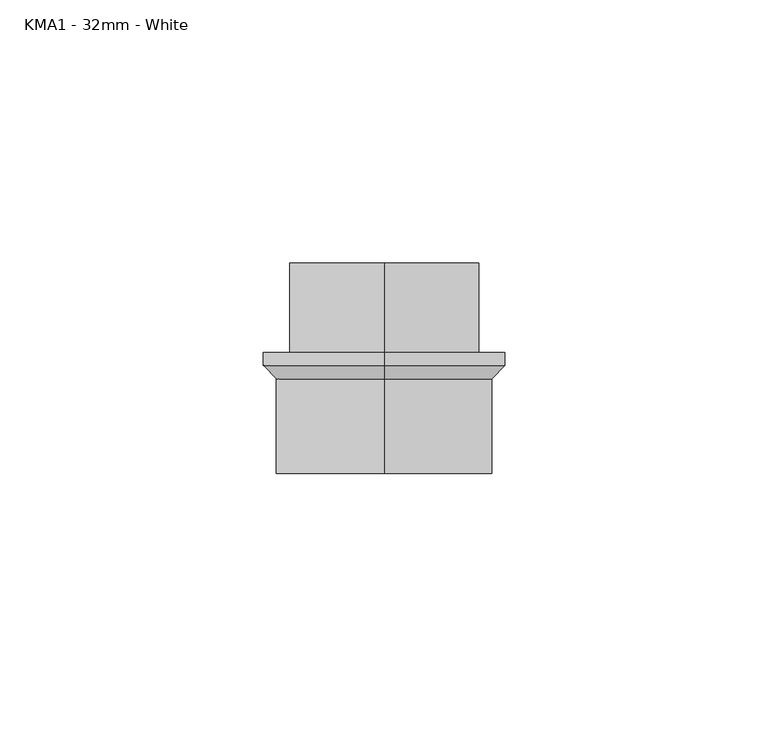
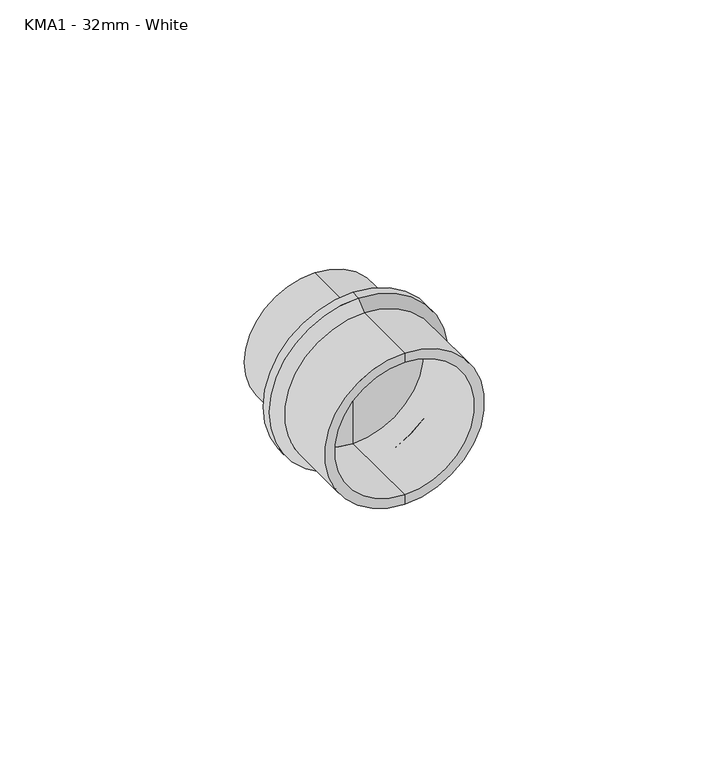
"""IFC4 building model written with IfcOpenShell, lengths in millimetres: pipe fitting geometry, MarleyPlumbingAndDrainage_PipeFitting_MaleIronAdaptor : KMA1 - 32mm - White."""

import ifcopenshell
import ifcopenshell.guid

model = None  # the IFC model being written
_history = None  # IfcOwnerHistory: only IFC2X3 demands one
_inside = {}  # id of a spatial element -> (the spatial element, [elements in it])
_under = {}  # id of a project, library or spatial element -> (it, [spatial elements below it])
_declared = {}  # id of a project -> (the project, [libraries it declares])
_typed = {}  # id of a type object -> (the type object, [elements of that type])
_made_of = {}  # id of a material, layer set ... -> (it, [elements and type objects made of it])


def new_model(schema):
    """Start an empty IFC model of exactly this schema.

    Asked for "IFC4X3", IfcOpenShell would pick the latest addendum, in which some entities
    have other attributes; the version numbers below select the first issue.
    IFC2X3 requires an IfcOwnerHistory on every rooted entity: one is made here for all.
    """
    global model, _history
    if schema == "IFC4X3":
        model = ifcopenshell.file(schema_version=(4, 3, 0, 0))
    else:
        model = ifcopenshell.file(schema=schema)
    _inside.clear()
    _under.clear()
    _declared.clear()
    _typed.clear()
    _made_of.clear()
    _history = None
    if model.schema == "IFC2X3":
        org = make("IfcOrganization", Name="unknown")
        user = make(
            "IfcPersonAndOrganization",
            ThePerson=make("IfcPerson", FamilyName="unknown"),
            TheOrganization=org,
        )
        app = make(
            "IfcApplication",
            ApplicationDeveloper=org,
            Version="unknown",
            ApplicationFullName="unknown",
            ApplicationIdentifier="unknown",
        )
        _history = make(
            "IfcOwnerHistory",
            OwningUser=user,
            OwningApplication=app,
            ChangeAction="ADDED",
            CreationDate=0,
        )
    return model


def make(cls, **values):
    """One entity of the class cls with the attributes given. An attribute that is None is left unset."""
    return model.create_entity(
        cls, **{name: value for name, value in values.items() if value is not None}
    )


def rooted(cls, **values):
    """An entity with a GlobalId (a new one), such as an element, a storey or a relation."""
    return make(cls, GlobalId=ifcopenshell.guid.new(), OwnerHistory=_history, **values)


def si_unit(unit_type, name, prefix=None):
    """IfcSIUnit, for example si_unit("LENGTHUNIT", "METRE", prefix="MILLI")."""
    return make("IfcSIUnit", UnitType=unit_type, Prefix=prefix, Name=name)


def assignment(units):
    """IfcUnitAssignment: the units of a project."""
    return None if units is None else make("IfcUnitAssignment", Units=units)


def point(xyz):
    """IfcCartesianPoint."""
    return None if xyz is None else make("IfcCartesianPoint", Coordinates=xyz)


def direction(xyz):
    """IfcDirection."""
    return None if xyz is None else make("IfcDirection", DirectionRatios=xyz)


def frame(location, z_axis=None, x_axis=None):
    """IfcAxis2Placement3D, a coordinate frame: its origin and axes. An axis left out is left unset."""
    return make(
        "IfcAxis2Placement3D",
        Location=point(location),
        Axis=direction(z_axis),
        RefDirection=direction(x_axis),
    )


def origin():
    """The frame at (0, 0, 0) with its axes left unset."""
    return frame((0.0, 0.0, 0.0))


def place(relative_to, where):
    """IfcLocalPlacement: puts the frame where relative to a parent placement (None: the world)."""
    return make(
        "IfcLocalPlacement", PlacementRelTo=relative_to, RelativePlacement=where
    )


def context(
    kind, dimensions, precision=None, world=None, true_north=None, identifier=None
):
    """IfcGeometricRepresentationContext, for example the 3D "Model" context."""
    return make(
        "IfcGeometricRepresentationContext",
        ContextIdentifier=identifier,
        ContextType=kind,
        CoordinateSpaceDimension=dimensions,
        Precision=precision,
        WorldCoordinateSystem=world,
        TrueNorth=true_north,
    )


def project(units=None, contexts=None):
    """IfcProject with its units and contexts."""
    return rooted(
        "IfcProject",
        Name="project",
        RepresentationContexts=contexts,
        UnitsInContext=assignment(units),
    )


def spatial(cls, under=None, at=None, **own):
    """A site, building, storey or space (cls), placed at a placement, below another one or the project."""
    s = rooted(cls, ObjectPlacement=at, **own)
    if under is not None:
        _under.setdefault(under.id(), (under, []))[1].append(s)
    return s


def polyline(points):
    """IfcPolyline through the points."""
    return make("IfcPolyline", Points=[point(p) for p in points])


def circle_curve(where, radius):
    """IfcCircle in the frame where."""
    return make("IfcCircle", Position=where, Radius=radius)


def shape(context_of_items, identifier, shape_type, items):
    """IfcShapeRepresentation: the items that make up one representation, for example the "Body"."""
    return make(
        "IfcShapeRepresentation",
        ContextOfItems=context_of_items,
        RepresentationIdentifier=identifier,
        RepresentationType=shape_type,
        Items=items,
    )


def source(mapping_origin, context_of_items, identifier, shape_type, items):
    """IfcRepresentationMap: a shape defined once, which mapped items show again and again."""
    return make(
        "IfcRepresentationMap",
        MappingOrigin=mapping_origin,
        MappedRepresentation=shape(context_of_items, identifier, shape_type, items),
    )


def transform(
    local_origin,
    x_axis=None,
    y_axis=None,
    z_axis=None,
    scale=None,
    scale2=None,
    scale3=None,
    uniform=True,
):
    """IfcCartesianTransformationOperator3D, or its non-uniform kind. x_axis, y_axis, z_axis: its Axis1, 2, 3."""
    if uniform:
        return make(
            "IfcCartesianTransformationOperator3D",
            Axis1=direction(x_axis),
            Axis2=direction(y_axis),
            LocalOrigin=point(local_origin),
            Scale=scale,
            Axis3=direction(z_axis),
        )
    return make(
        "IfcCartesianTransformationOperator3DnonUniform",
        Axis1=direction(x_axis),
        Axis2=direction(y_axis),
        LocalOrigin=point(local_origin),
        Scale=scale,
        Axis3=direction(z_axis),
        Scale2=scale2,
        Scale3=scale3,
    )


def mapped(mapping_source, mapping_target):
    """IfcMappedItem: shows the shape of a source again, moved by a transform."""
    return make(
        "IfcMappedItem", MappingSource=mapping_source, MappingTarget=mapping_target
    )


def made_of(thing, what):
    """Note that an element or type object is made of a material, layer set ...; save() writes the relation."""
    if what is not None:
        _made_of.setdefault(what.id(), (what, []))[1].append(thing)
    return thing


def element(
    cls,
    number,
    at=None,
    inside=None,
    cuts=None,
    type_object=None,
    material=None,
    context=None,
    identifier="Body",
    shape_type=None,
    held_by="IfcProductDefinitionShape",
    body=None,
    shapes=None,
    **own,
):
    """One element of the class cls, such as IfcWall. Its Tag is "e" and its number.

    at: its placement. inside: the storey or other place that contains it. cuts: it is an
    opening in that element (IfcRelVoidsElement). A single representation is given by context,
    identifier, shape_type and body (its items); several are given by shapes. held_by: the class
    of the entity that holds the representations. save() writes the other relations.
    """
    e = rooted(cls, Tag="e%d" % number, ObjectPlacement=at, **own)
    if body is not None:
        shapes = [shape(context, identifier, shape_type, body)]
    if shapes is not None:
        e.Representation = make(held_by, Representations=shapes)
    if inside is not None:
        _inside.setdefault(inside.id(), (inside, []))[1].append(e)
    if cuts is not None:
        rooted(
            "IfcRelVoidsElement", RelatingBuildingElement=cuts, RelatedOpeningElement=e
        )
    if type_object is not None:
        _typed.setdefault(type_object.id(), (type_object, []))[1].append(e)
    return made_of(e, material)


def aggregate(whole, parts):
    """IfcRelAggregates: a whole, such as a stair, and the parts it consists of."""
    return rooted("IfcRelAggregates", RelatingObject=whole, RelatedObjects=parts)


def save(model, path):
    """Write the relations noted so far, then the file.

    IfcRelAggregates (storeys below a building ...), IfcRelContainedInSpatialStructure (elements
    in a storey), IfcRelDefinesByType, IfcRelAssociatesMaterial and IfcRelDeclares: one each for
    every whole, place, type object, material and project.
    """
    for whole, parts in _under.values():
        aggregate(whole, parts)
    for where, things in _inside.values():
        rooted(
            "IfcRelContainedInSpatialStructure",
            RelatedElements=things,
            RelatingStructure=where,
        )
    for kind, things in _typed.values():
        rooted("IfcRelDefinesByType", RelatedObjects=things, RelatingType=kind)
    for what, things in _made_of.values():
        rooted("IfcRelAssociatesMaterial", RelatedObjects=things, RelatingMaterial=what)
    for by, libraries in _declared.values():
        rooted("IfcRelDeclares", RelatingContext=by, RelatedDefinitions=libraries)
    model.write(path)


def plane_surface(at):
    """IfcPlane: the flat surface through the origin of the frame at, square to its z axis."""
    return make("IfcPlane", Position=at)


def cylinder_surface(at, radius):
    """IfcCylindricalSurface: all points at the distance radius from the z axis of the frame at."""
    return make("IfcCylindricalSurface", Position=at, Radius=radius)


def revolved_surface(curve, axis_point, axis_direction):
    """IfcSurfaceOfRevolution: the curve turned about the line through axis_point along axis_direction."""
    return make(
        "IfcSurfaceOfRevolution",
        SweptCurve=make("IfcArbitraryOpenProfileDef", ProfileType="CURVE", Curve=curve),
        AxisPosition=make("IfcAxis1Placement", Location=point(axis_point), Axis=direction(axis_direction)),
    )


def advanced_brep(points, edges, surfaces, faces):
    """IfcAdvancedBrep: a solid bounded by faces that lie on surfaces and meet in shared edges.

    An edge is (start, end): straight between two places in points (the first is 0);
    or (start, end, curve); or (start, end, curve, False) where it runs against its curve.
    A face is (place in surfaces, loops), or (place, loops, False) where it looks against
    its surface's normal. A loop lists edges by number (the first is 1), with a minus sign
    where the edge is run from its end to its start. The first loop is the outer one.
    """
    corners = [point(p) for p in points]
    vertices = [make("IfcVertexPoint", VertexGeometry=c) for c in corners]
    made = []
    for start, end, *more in edges:
        made.append(
            make(
                "IfcEdgeCurve",
                EdgeStart=vertices[start],
                EdgeEnd=vertices[end],
                EdgeGeometry=more[0] if more else make("IfcPolyline", Points=[corners[start], corners[end]]),
                SameSense=more[1] if len(more) > 1 else True,
            )
        )
    hull = []
    for where, loops, *sense in faces:
        bounds = []
        for j, loop in enumerate(loops):
            ring = [make("IfcOrientedEdge", EdgeElement=made[abs(k) - 1], Orientation=k > 0) for k in loop]
            bounds.append(
                make(
                    "IfcFaceOuterBound" if j == 0 else "IfcFaceBound",
                    Bound=make("IfcEdgeLoop", EdgeList=ring),
                    Orientation=True,
                )
            )
        hull.append(make("IfcAdvancedFace", Bounds=bounds, FaceSurface=surfaces[where], SameSense=sense[0] if sense else True))
    return make("IfcAdvancedBrep", Outer=make("IfcClosedShell", CfsFaces=hull))


def kma1_32mm_white_f1e2a98e(model_context):
    return source(origin(), model_context, "Body", "AdvancedBrep", [
        advanced_brep(
        [(-14.8253818, 0.0, 0.0), (-14.8253818, 0.0, 18.0), (-14.8253818, 0.0, -18.0), (-14.8253818, 17.0, -18.0), (-14.8253818, 17.0, 18.0), (-14.8253818, 17.0, 0.0)],
        [
            (0, 1),
            (1, 2, circle_curve(frame((-14.8253818, 0.0, 0.0), z_axis=(0.0, -1.0, 0.0), x_axis=(0.0, 0.0, 1.0)), 18.0)),
            (2, 0),
            (2, 1, circle_curve(frame((-14.8253818, 0.0, 0.0), z_axis=(0.0, -1.0, 0.0), x_axis=(0.0, 0.0, 1.0)), 18.0)),
            (3, 4, circle_curve(frame((-14.8253818, 17.0, 0.0), z_axis=(0.0, 1.0, 0.0), x_axis=(0.0, 0.0, 1.0)), 18.0)),
            (4, 5),
            (5, 3),
            (4, 3, circle_curve(frame((-14.8253818, 17.0, 0.0), z_axis=(0.0, 1.0, 0.0), x_axis=(0.0, 0.0, 1.0)), 18.0)),
            (1, 4),
            (3, 2),
        ],
        [
            plane_surface(frame((-14.8253818, 0.0, 0.0), z_axis=(0.0, -1.0, 0.0), x_axis=(0.0, 0.0, 1.0))),
            plane_surface(frame((-14.8253818, 17.0, 0.0), z_axis=(0.0, 1.0, 0.0), x_axis=(0.0, 0.0, 1.0))),
            cylinder_surface(frame((-14.8253818, 1442.4208958, 0.0), z_axis=(0.0, -1.0, 0.0), x_axis=(0.0, 0.0, 1.0)), 18.0),
        ],
        [
            (0, [[1, 2, 3]]),
            (0, [[-3, 4, -1]]),
            (1, [[5, 6, 7]]),
            (1, [[8, -7, -6]]),
            (2, [[-2, 9, -5, 10]]),
            (2, [[-4, -10, -8, -9]]),
        ],
    ),
        advanced_brep(
        [(-14.8253818, -23.0, -18.0), (-14.8253818, -23.0, 18.0), (-14.8253818, -23.0, 20.5), (-14.8253818, -23.0, -20.5), (-14.8253818, 0.0, -18.0), (-14.8253818, 0.0, 18.0), (-14.8253818, 0.0, -23.0), (-14.8253818, 0.0, 23.0), (-14.8253818, -2.5, -23.0), (-14.8253818, -2.5, 23.0), (-14.8253818, -5.0, -20.5), (-14.8253818, -5.0, 20.5)],
        [
            (0, 1, circle_curve(frame((-14.8253818, -23.0, 0.0), z_axis=(0.0, 1.0, 0.0), x_axis=(0.0, 0.0, 1.0)), 18.0)),
            (1, 2),
            (2, 3, circle_curve(frame((-14.8253818, -23.0, 0.0), z_axis=(0.0, -1.0, 0.0), x_axis=(0.0, 0.0, 1.0)), 20.5)),
            (3, 0),
            (1, 0, circle_curve(frame((-14.8253818, -23.0, 0.0), z_axis=(0.0, 1.0, 0.0), x_axis=(0.0, 0.0, 1.0)), 18.0)),
            (3, 2, circle_curve(frame((-14.8253818, -23.0, 0.0), z_axis=(0.0, -1.0, 0.0), x_axis=(0.0, 0.0, 1.0)), 20.5)),
            (4, 5, circle_curve(frame((-14.8253818, 0.0, 0.0), z_axis=(0.0, 1.0, 0.0), x_axis=(0.0, 0.0, 1.0)), 18.0)),
            (5, 1),
            (0, 4),
            (5, 4, circle_curve(frame((-14.8253818, 0.0, 0.0), z_axis=(0.0, 1.0, 0.0), x_axis=(0.0, 0.0, 1.0)), 18.0)),
            (6, 7, circle_curve(frame((-14.8253818, 0.0, 0.0), z_axis=(0.0, 1.0, 0.0), x_axis=(0.0, 0.0, 1.0)), 23.0)),
            (7, 5),
            (4, 6),
            (7, 6, circle_curve(frame((-14.8253818, 0.0, 0.0), z_axis=(0.0, 1.0, 0.0), x_axis=(0.0, 0.0, 1.0)), 23.0)),
            (8, 9, circle_curve(frame((-14.8253818, -2.5, 0.0), z_axis=(0.0, 1.0, 0.0), x_axis=(0.0, 0.0, 1.0)), 23.0)),
            (9, 7),
            (6, 8),
            (9, 8, circle_curve(frame((-14.8253818, -2.5, 0.0), z_axis=(0.0, 1.0, 0.0), x_axis=(0.0, 0.0, 1.0)), 23.0)),
            (10, 11, circle_curve(frame((-14.8253818, -5.0, 0.0), z_axis=(0.0, 1.0, 0.0), x_axis=(0.0, 0.0, 1.0)), 20.5)),
            (11, 9),
            (8, 10),
            (11, 10, circle_curve(frame((-14.8253818, -5.0, 0.0), z_axis=(0.0, 1.0, 0.0), x_axis=(0.0, 0.0, 1.0)), 20.5)),
            (2, 11),
            (10, 3),
        ],
        [
            plane_surface(frame((-14.8253818, -23.0, 0.0), z_axis=(0.0, -1.0, 0.0), x_axis=(0.0, 0.0, 1.0))),
            revolved_surface(polyline([(-14.8253818, -23.0, 18.0), (-14.8253818, 0.0, 18.0)]), (-14.8253818, 1632.5437807, 0.0), (0.0, -1.0, 0.0)),
            plane_surface(frame((-14.8253818, 0.0, 0.0), z_axis=(0.0, 1.0, 0.0), x_axis=(0.0, 0.0, 1.0))),
            cylinder_surface(frame((-14.8253818, 1632.5437807, 0.0), z_axis=(0.0, -1.0, 0.0), x_axis=(0.0, 0.0, 1.0)), 23.0),
            revolved_surface(polyline([(-14.8253818, -2.5, 23.0), (-14.8253818, -5.0, 20.5)]), (-14.8253818, 1632.5437807, 0.0), (0.0, -1.0, 0.0)),
            cylinder_surface(frame((-14.8253818, 1632.5437807, 0.0), z_axis=(0.0, -1.0, 0.0), x_axis=(0.0, 0.0, 1.0)), 20.5),
        ],
        [
            (0, [[1, 2, 3, 4]]),
            (0, [[5, -4, 6, -2]]),
            (1, [[7, 8, -1, 9]]),
            (1, [[10, -9, -5, -8]]),
            (2, [[11, 12, -7, 13]]),
            (2, [[14, -13, -10, -12]]),
            (3, [[15, 16, -11, 17]]),
            (3, [[18, -17, -14, -16]]),
            (4, [[19, 20, -15, 21]]),
            (4, [[22, -21, -18, -20]]),
            (5, [[-3, 23, -19, 24]]),
            (5, [[-6, -24, -22, -23]]),
        ],
    ),
    ])


if __name__ == "__main__":
    model = new_model("IFC4")
    model_context = context("Model", 3, world=origin())
    ifc_project = project(units=[si_unit("LENGTHUNIT", "METRE", prefix="MILLI")], contexts=[model_context])
    site = spatial("IfcSite", under=ifc_project)
    building = spatial("IfcBuilding", under=site)
    placement = place(None, origin())
    kma1_32mm_white_shape = kma1_32mm_white_f1e2a98e(model_context)
    element("IfcPipeFitting", 1, ObjectType="MarleyPlumbingAndDrainage_PipeFitting_MaleIronAdaptor : KMA1 - 32mm - White", at=placement, inside=building, context=model_context, shape_type="MappedRepresentation", body=[
        mapped(kma1_32mm_white_shape, transform((0.0, 0.0, 0.0), x_axis=(1.0, 0.0, 0.0), y_axis=(0.0, 1.0, 0.0), z_axis=(0.0, 0.0, 1.0))),
    ])
    save(model, "model.ifc")
